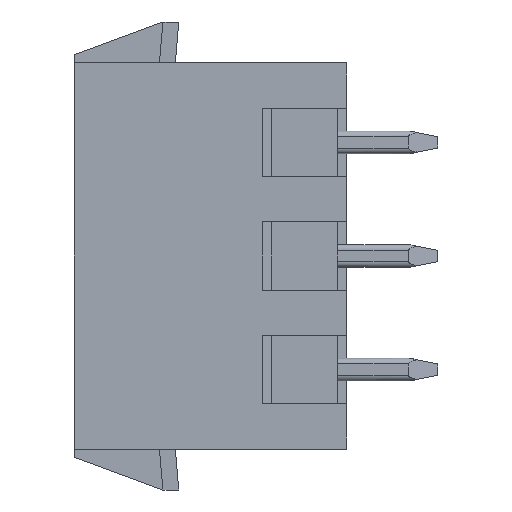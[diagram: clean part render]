
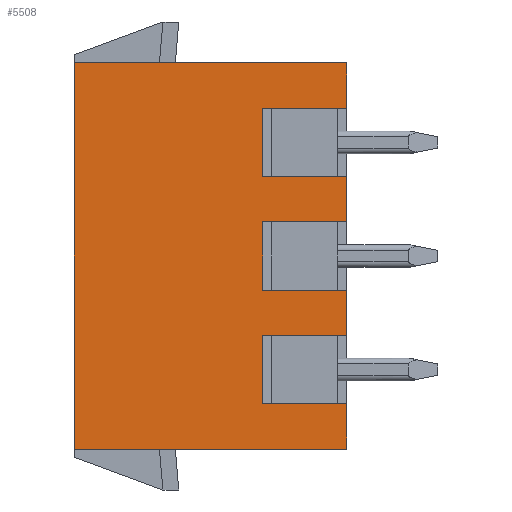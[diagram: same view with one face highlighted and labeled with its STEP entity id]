
A CAD part, left-side view. The second image highlights one B-rep face of the part: STEP entity #5508.
In plain terms, the highlighted planar face has unit normal (-1, 0, 0).
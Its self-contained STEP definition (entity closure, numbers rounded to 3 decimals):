
#89=DIRECTION('',(0.,0.,-1.));
#90=VECTOR('',#89,17.);
#91=CARTESIAN_POINT('',(0.,12.,-20.));
#92=LINE('',#91,#90);
#204=DIRECTION('',(0.,1.,0.));
#205=VECTOR('',#204,12.);
#206=CARTESIAN_POINT('',(0.,0.,-20.));
#207=LINE('',#206,#205);
#2099=DIRECTION('',(0.,0.,-1.));
#2100=VECTOR('',#2099,3.);
#2101=CARTESIAN_POINT('',(0.,3.7,-22.));
#2102=LINE('',#2101,#2100);
#2103=DIRECTION('',(0.,-1.,0.));
#2104=VECTOR('',#2103,3.7);
#2105=CARTESIAN_POINT('',(0.,3.7,-25.));
#2106=LINE('',#2105,#2104);
#2107=DIRECTION('',(0.,0.,-1.));
#2108=VECTOR('',#2107,2.);
#2109=CARTESIAN_POINT('',(0.,0.,-25.));
#2110=LINE('',#2109,#2108);
#2111=DIRECTION('',(0.,1.,0.));
#2112=VECTOR('',#2111,3.7);
#2113=CARTESIAN_POINT('',(0.,0.,-27.));
#2114=LINE('',#2113,#2112);
#2115=DIRECTION('',(0.,0.,-1.));
#2116=VECTOR('',#2115,3.);
#2117=CARTESIAN_POINT('',(0.,3.7,-27.));
#2118=LINE('',#2117,#2116);
#2119=DIRECTION('',(0.,-1.,0.));
#2120=VECTOR('',#2119,3.7);
#2121=CARTESIAN_POINT('',(0.,3.7,-30.));
#2122=LINE('',#2121,#2120);
#2123=DIRECTION('',(0.,0.,-1.));
#2124=VECTOR('',#2123,2.);
#2125=CARTESIAN_POINT('',(0.,0.,-30.));
#2126=LINE('',#2125,#2124);
#2127=DIRECTION('',(0.,1.,0.));
#2128=VECTOR('',#2127,3.7);
#2129=CARTESIAN_POINT('',(0.,0.,-32.));
#2130=LINE('',#2129,#2128);
#2131=DIRECTION('',(0.,0.,-1.));
#2132=VECTOR('',#2131,3.);
#2133=CARTESIAN_POINT('',(0.,3.7,-32.));
#2134=LINE('',#2133,#2132);
#2135=DIRECTION('',(0.,-1.,0.));
#2136=VECTOR('',#2135,3.7);
#2137=CARTESIAN_POINT('',(0.,3.7,-35.));
#2138=LINE('',#2137,#2136);
#2139=DIRECTION('',(0.,0.,-1.));
#2140=VECTOR('',#2139,2.);
#2141=CARTESIAN_POINT('',(0.,0.,-35.));
#2142=LINE('',#2141,#2140);
#2143=DIRECTION('',(0.,1.,0.));
#2144=VECTOR('',#2143,12.);
#2145=CARTESIAN_POINT('',(0.,0.,-37.));
#2146=LINE('',#2145,#2144);
#2147=DIRECTION('',(0.,0.,-1.));
#2148=VECTOR('',#2147,2.);
#2149=CARTESIAN_POINT('',(0.,0.,-20.));
#2150=LINE('',#2149,#2148);
#2151=DIRECTION('',(0.,1.,0.));
#2152=VECTOR('',#2151,3.7);
#2153=CARTESIAN_POINT('',(0.,0.,-22.));
#2154=LINE('',#2153,#2152);
#2204=CARTESIAN_POINT('',(0.,12.,-37.));
#2205=VERTEX_POINT('',#2204);
#2206=CARTESIAN_POINT('',(0.,0.,-37.));
#2207=VERTEX_POINT('',#2206);
#2256=CARTESIAN_POINT('',(0.,12.,-20.));
#2257=VERTEX_POINT('',#2256);
#2314=CARTESIAN_POINT('',(0.,0.,-20.));
#2315=VERTEX_POINT('',#2314);
#2407=CARTESIAN_POINT('',(0.,0.,-22.));
#2408=VERTEX_POINT('',#2407);
#2409=CARTESIAN_POINT('',(0.,0.,-35.));
#2410=VERTEX_POINT('',#2409);
#2451=CARTESIAN_POINT('',(0.,0.,-27.));
#2452=VERTEX_POINT('',#2451);
#2453=CARTESIAN_POINT('',(0.,0.,-25.));
#2454=VERTEX_POINT('',#2453);
#2457=CARTESIAN_POINT('',(0.,3.7,-27.));
#2458=VERTEX_POINT('',#2457);
#2545=CARTESIAN_POINT('',(0.,3.7,-35.));
#2546=VERTEX_POINT('',#2545);
#2547=CARTESIAN_POINT('',(0.,3.7,-22.));
#2548=CARTESIAN_POINT('',(0.,3.7,-25.));
#2549=VERTEX_POINT('',#2547);
#2550=VERTEX_POINT('',#2548);
#2551=CARTESIAN_POINT('',(0.,3.7,-30.));
#2552=VERTEX_POINT('',#2551);
#2553=CARTESIAN_POINT('',(0.,0.,-30.));
#2554=VERTEX_POINT('',#2553);
#2555=CARTESIAN_POINT('',(0.,0.,-32.));
#2556=VERTEX_POINT('',#2555);
#2557=CARTESIAN_POINT('',(0.,3.7,-32.));
#2558=VERTEX_POINT('',#2557);
#5483=CARTESIAN_POINT('',(0.,12.,-37.));
#5484=DIRECTION('',(-1.,0.,0.));
#5485=DIRECTION('',(0.,-1.,0.));
#5486=AXIS2_PLACEMENT_3D('',#5483,#5484,#5485);
#5487=PLANE('',#5486);
#5489=ORIENTED_EDGE('',*,*,#5488,.T.);
#5490=ORIENTED_EDGE('',*,*,#5326,.T.);
#5491=ORIENTED_EDGE('',*,*,#5357,.T.);
#5492=ORIENTED_EDGE('',*,*,#5373,.T.);
#5493=ORIENTED_EDGE('',*,*,#5387,.T.);
#5494=ORIENTED_EDGE('',*,*,#5402,.T.);
#5495=ORIENTED_EDGE('',*,*,#5432,.T.);
#5496=ORIENTED_EDGE('',*,*,#5448,.T.);
#5497=ORIENTED_EDGE('',*,*,#5462,.T.);
#5498=ORIENTED_EDGE('',*,*,#5473,.T.);
#5499=ORIENTED_EDGE('',*,*,#3899,.T.);
#5500=ORIENTED_EDGE('',*,*,#2766,.T.);
#5501=ORIENTED_EDGE('',*,*,#2909,.F.);
#5502=ORIENTED_EDGE('',*,*,#2988,.F.);
#5503=ORIENTED_EDGE('',*,*,#3894,.T.);
#5505=ORIENTED_EDGE('',*,*,#5504,.T.);
#5506=EDGE_LOOP('',(#5489,#5490,#5491,#5492,#5493,#5494,#5495,#5496,#5497,#5498,
#5499,#5500,#5501,#5502,#5503,#5505));
#5507=FACE_OUTER_BOUND('',#5506,.F.);
#5508=ADVANCED_FACE('',(#5507),#5487,.T.);
#2766=EDGE_CURVE('',#2207,#2205,#2146,.T.);
#2909=EDGE_CURVE('',#2257,#2205,#92,.T.);
#2988=EDGE_CURVE('',#2315,#2257,#207,.T.);
#3894=EDGE_CURVE('',#2315,#2408,#2150,.T.);
#3899=EDGE_CURVE('',#2410,#2207,#2142,.T.);
#5326=EDGE_CURVE('',#2550,#2454,#2106,.T.);
#5357=EDGE_CURVE('',#2454,#2452,#2110,.T.);
#5373=EDGE_CURVE('',#2452,#2458,#2114,.T.);
#5387=EDGE_CURVE('',#2458,#2552,#2118,.T.);
#5402=EDGE_CURVE('',#2552,#2554,#2122,.T.);
#5432=EDGE_CURVE('',#2554,#2556,#2126,.T.);
#5448=EDGE_CURVE('',#2556,#2558,#2130,.T.);
#5462=EDGE_CURVE('',#2558,#2546,#2134,.T.);
#5473=EDGE_CURVE('',#2546,#2410,#2138,.T.);
#5488=EDGE_CURVE('',#2549,#2550,#2102,.T.);
#5504=EDGE_CURVE('',#2408,#2549,#2154,.T.);
